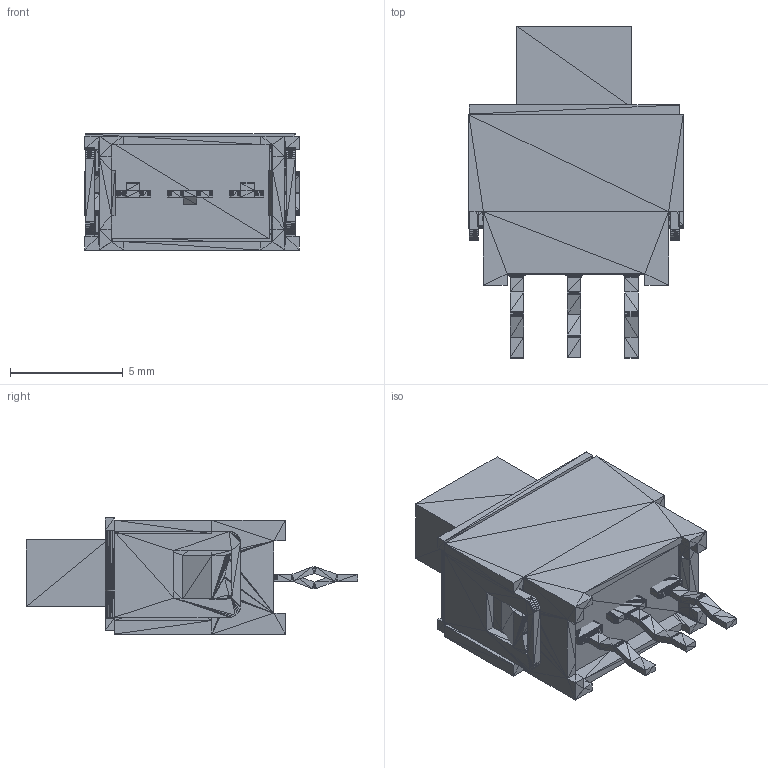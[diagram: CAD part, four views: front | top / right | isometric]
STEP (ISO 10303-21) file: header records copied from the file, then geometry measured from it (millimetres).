
FILE_DESCRIPTION(/* description */ (''),/* implementation_level */ '2;1');
FILE_NAME(/* name */ 'ASE 1 D.stp',/* time_stamp */ '2019-12-6T15:05:50.4023256',/* author */ ('knitter-switch'),/* organization */ (''),/* preprocessor_version */ 'InStep v2',/* originating_system */ 'InStep V2.3',/* authorisation */ '');
FILE_SCHEMA (('AUTOMOTIVE_DESIGN { 1 0 10303 214 1 1 1 1 }'));
Length unit declared in the file: centimetre
Products named in the file (1): None
Bounding box: 9.5 x 14.7 x 5.15 mm (x, y, z)
Surface area: 560.4 mm2
Topology: 1 solids, 7 shells, 2008 faces, 3150 edges, 1138 vertices
Faces by surface type: plane 2008
Entity records: 30530 total; most frequent: ORIENTED_EDGE 6300, DIRECTION 3767, LINE 3150, EDGE_CURVE 3150, AXIS2_PLACEMENT_3D 2009, EDGE_LOOP 2008, FACE_OUTER_BOUND 2008, PLANE 2008
